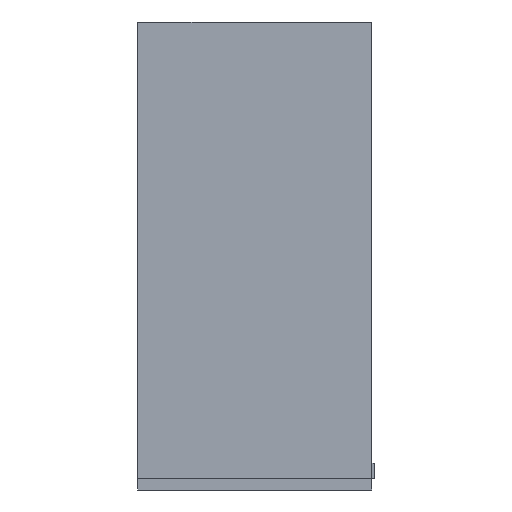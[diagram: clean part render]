
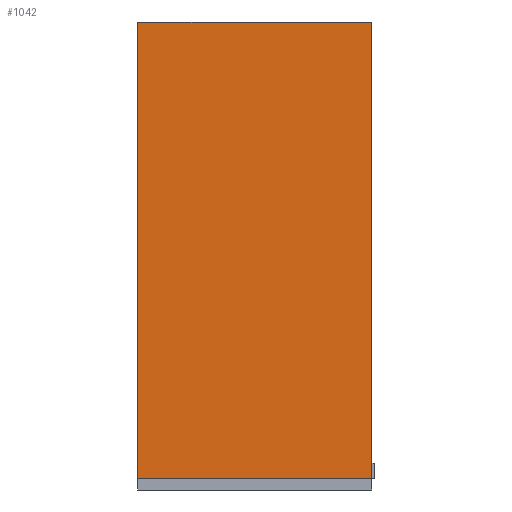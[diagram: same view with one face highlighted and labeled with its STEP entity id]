
A CAD part, left-side view. The second image highlights one B-rep face of the part: STEP entity #1042.
In plain terms, the highlighted planar face has unit normal (-1, 0, 0).
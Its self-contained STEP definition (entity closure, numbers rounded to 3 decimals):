
#7 = CARTESIAN_POINT ( 'NONE',  ( -75., 10., -0.3 ) ) ;
#18 = ORIENTED_EDGE ( 'NONE', *, *, #53, .T. ) ;
#53 = EDGE_CURVE ( 'NONE', #1217, #1581, #962, .T. ) ;
#89 = CARTESIAN_POINT ( 'NONE',  ( -75., -10., -0.3 ) ) ;
#93 = DIRECTION ( 'NONE',  ( 0., -1., 0. ) ) ;
#218 = DIRECTION ( 'NONE',  ( -1., 0., 0. ) ) ;
#261 = CARTESIAN_POINT ( 'NONE',  ( -75., 10., -0.3 ) ) ;
#283 = VERTEX_POINT ( 'NONE', #344 ) ;
#304 = CARTESIAN_POINT ( 'NONE',  ( -75., -10., -0.3 ) ) ;
#320 = VECTOR ( 'NONE', #758, 1000. ) ;
#344 = CARTESIAN_POINT ( 'NONE',  ( -75., 10., 38.7 ) ) ;
#398 = CARTESIAN_POINT ( 'NONE',  ( -75., -10., -0.3 ) ) ;
#424 = CARTESIAN_POINT ( 'NONE',  ( -75., -10., -0.3 ) ) ;
#449 = CARTESIAN_POINT ( 'NONE',  ( -75., -10., 38.7 ) ) ;
#459 = ORIENTED_EDGE ( 'NONE', *, *, #1549, .F. ) ;
#481 = ORIENTED_EDGE ( 'NONE', *, *, #543, .T. ) ;
#537 = DIRECTION ( 'NONE',  ( 0., 0., 1. ) ) ;
#543 = EDGE_CURVE ( 'NONE', #1581, #931, #649, .T. ) ;
#649 = LINE ( 'NONE', #398, #320 ) ;
#702 = FACE_OUTER_BOUND ( 'NONE', #1384, .T. ) ;
#758 = DIRECTION ( 'NONE',  ( 0., 0., 1. ) ) ;
#821 = CARTESIAN_POINT ( 'NONE',  ( -75., 0., 38.7 ) ) ;
#907 = DIRECTION ( 'NONE',  ( 0., -1., 0. ) ) ;
#931 = VERTEX_POINT ( 'NONE', #449 ) ;
#962 = LINE ( 'NONE', #304, #1597 ) ;
#1010 = VECTOR ( 'NONE', #93, 1000. ) ;
#1034 = EDGE_CURVE ( 'NONE', #283, #931, #1395, .T. ) ;
#1042 = ADVANCED_FACE ( 'NONE', ( #702 ), #1576, .T. ) ;
#1070 = DIRECTION ( 'NONE',  ( 0., 0., 1. ) ) ;
#1217 = VERTEX_POINT ( 'NONE', #7 ) ;
#1236 = AXIS2_PLACEMENT_3D ( 'NONE', #89, #218, #1070 ) ;
#1237 = LINE ( 'NONE', #261, #1529 ) ;
#1384 = EDGE_LOOP ( 'NONE', ( #481, #1386, #459, #18 ) ) ;
#1386 = ORIENTED_EDGE ( 'NONE', *, *, #1034, .F. ) ;
#1395 = LINE ( 'NONE', #821, #1010 ) ;
#1529 = VECTOR ( 'NONE', #537, 1000. ) ;
#1549 = EDGE_CURVE ( 'NONE', #1217, #283, #1237, .T. ) ;
#1576 = PLANE ( 'NONE',  #1236 ) ;
#1581 = VERTEX_POINT ( 'NONE', #424 ) ;
#1597 = VECTOR ( 'NONE', #907, 1000. ) ;
